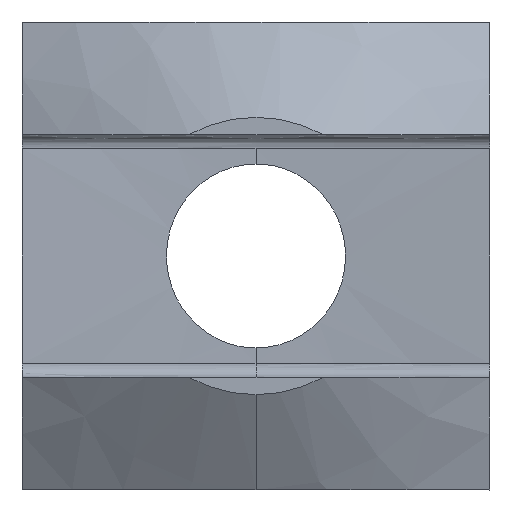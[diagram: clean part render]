
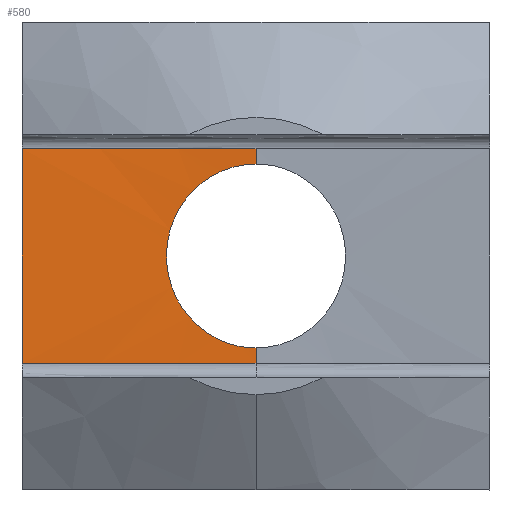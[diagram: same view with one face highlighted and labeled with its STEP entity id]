
A CAD part, left-side view. The second image highlights one B-rep face of the part: STEP entity #580.
In plain terms, the highlighted cylindrical face has radius 157 mm (diameter 314 mm), a partial arc.
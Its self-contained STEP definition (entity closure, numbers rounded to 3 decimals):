
#31 = EDGE_CURVE ( 'NONE', #1314, #472, #369, .T. ) ;
#39 = DIRECTION ( 'NONE',  ( 0., 0., -1. ) ) ;
#55 = CARTESIAN_POINT ( 'NONE',  ( 28.55, 3.179, 4.192 ) ) ;
#61 = CARTESIAN_POINT ( 'NONE',  ( 28.573, 1.689, 5.024 ) ) ;
#66 = CARTESIAN_POINT ( 'NONE',  ( 28.544, 3.44, 3.969 ) ) ;
#97 = CARTESIAN_POINT ( 'NONE',  ( 28.527, 4.127, -3.204 ) ) ;
#100 = CARTESIAN_POINT ( 'NONE',  ( 28.573, 1.689, -5.023 ) ) ;
#158 = CIRCLE ( 'NONE', #1053, 157. ) ;
#159 = LINE ( 'NONE', #997, #819 ) ;
#172 = CARTESIAN_POINT ( 'NONE',  ( 28.56, 2.613, 4.587 ) ) ;
#186 = ORIENTED_EDGE ( 'NONE', *, *, #31, .F. ) ;
#190 = DIRECTION ( 'NONE',  ( 1., 0., 0. ) ) ;
#191 = LINE ( 'NONE', #282, #869 ) ;
#192 = DIRECTION ( 'NONE',  ( 0., 0., 1. ) ) ;
#194 = VECTOR ( 'NONE', #1461, 1000. ) ;
#201 = CARTESIAN_POINT ( 'NONE',  ( 28.567, 2.158, -4.821 ) ) ;
#210 = CYLINDRICAL_SURFACE ( 'NONE', #288, 157. ) ;
#229 = ORIENTED_EDGE ( 'NONE', *, *, #1330, .F. ) ;
#255 = DIRECTION ( 'NONE',  ( 0., 0., 1. ) ) ;
#270 = CARTESIAN_POINT ( 'NONE',  ( 28.58, 0.686, 5.268 ) ) ;
#279 = CARTESIAN_POINT ( 'NONE',  ( 28.533, 3.906, 3.471 ) ) ;
#282 = CARTESIAN_POINT ( 'NONE',  ( 28.581, 0., 0. ) ) ;
#285 = CARTESIAN_POINT ( 'NONE',  ( 28.497, 5.162, 0.343 ) ) ;
#288 = AXIS2_PLACEMENT_3D ( 'NONE', #1363, #192, #190 ) ;
#297 = VERTEX_POINT ( 'NONE', #1421 ) ;
#303 = CARTESIAN_POINT ( 'NONE',  ( 28.517, 4.495, -2.63 ) ) ;
#309 = CARTESIAN_POINT ( 'NONE',  ( 28.581, 0., -5.303 ) ) ;
#366 = ORIENTED_EDGE ( 'NONE', *, *, #569, .F. ) ;
#369 = B_SPLINE_CURVE_WITH_KNOTS ( 'NONE', 3,
 ( #978, #982, #270, #725, #61, #620, #172, #55, #66, #844, #279, #1094, #1232, #964, #1457, #1088, #857, #1218, #285, #415, #436, #987, #1111, #549, #1489, #885, #303, #97, #540, #1122, #772, #890, #760, #1260, #201, #100, #1240, #1360, #1371, #309 ),
 .UNSPECIFIED., .F., .F.,
 ( 4, 2, 2, 2, 2, 2, 2, 2, 2, 2, 2, 2, 2, 2, 2, 2, 2, 2, 2, 4 ),
 ( 0., 0.001, 0.002, 0.003, 0.004, 0.005, 0.005, 0.006, 0.007, 0.008, 0.009, 0.01, 0.01, 0.011, 0.012, 0.013, 0.014, 0.014, 0.015, 0.016 ),
 .UNSPECIFIED. ) ;
#415 = CARTESIAN_POINT ( 'NONE',  ( 28.497, 5.162, -0.348 ) ) ;
#436 = CARTESIAN_POINT ( 'NONE',  ( 28.498, 5.129, -0.688 ) ) ;
#464 = AXIS2_PLACEMENT_3D ( 'NONE', #602, #39, #722 ) ;
#472 = VERTEX_POINT ( 'NONE', #1091 ) ;
#494 = CARTESIAN_POINT ( 'NONE',  ( 28.581, 0., 5.303 ) ) ;
#502 = CARTESIAN_POINT ( 'NONE',  ( 28.581, 0., 6.2 ) ) ;
#537 = DIRECTION ( 'NONE',  ( 0., 0., 1. ) ) ;
#540 = CARTESIAN_POINT ( 'NONE',  ( 28.533, 3.912, -3.478 ) ) ;
#549 = CARTESIAN_POINT ( 'NONE',  ( 28.505, 4.898, -1.685 ) ) ;
#563 = EDGE_CURVE ( 'NONE', #1314, #1405, #741, .T. ) ;
#569 = EDGE_CURVE ( 'NONE', #1315, #1102, #159, .T. ) ;
#580 = ADVANCED_FACE ( 'NONE', ( #1222 ), #210, .F. ) ;
#602 = CARTESIAN_POINT ( 'NONE',  ( -128.419, 0., 6.2 ) ) ;
#620 = CARTESIAN_POINT ( 'NONE',  ( 28.565, 2.315, 4.753 ) ) ;
#722 = DIRECTION ( 'NONE',  ( -1., 0., 0. ) ) ;
#725 = CARTESIAN_POINT ( 'NONE',  ( 28.576, 1.357, 5.129 ) ) ;
#736 = DIRECTION ( 'NONE',  ( 0., 0., 1. ) ) ;
#741 = LINE ( 'NONE', #1234, #194 ) ;
#760 = CARTESIAN_POINT ( 'NONE',  ( 28.56, 2.612, -4.578 ) ) ;
#772 = CARTESIAN_POINT ( 'NONE',  ( 28.55, 3.18, -4.192 ) ) ;
#796 = CIRCLE ( 'NONE', #464, 157. ) ;
#819 = VECTOR ( 'NONE', #537, 1000. ) ;
#844 = CARTESIAN_POINT ( 'NONE',  ( 28.536, 3.794, 3.6 ) ) ;
#857 = CARTESIAN_POINT ( 'NONE',  ( 28.502, 5.002, 1.355 ) ) ;
#869 = VECTOR ( 'NONE', #736, 1000. ) ;
#885 = CARTESIAN_POINT ( 'NONE',  ( 28.513, 4.651, -2.327 ) ) ;
#890 = CARTESIAN_POINT ( 'NONE',  ( 28.557, 2.759, -4.486 ) ) ;
#934 = CARTESIAN_POINT ( 'NONE',  ( 28., 13.5, -6.2 ) ) ;
#939 = EDGE_CURVE ( 'NONE', #1102, #1405, #796, .T. ) ;
#947 = CARTESIAN_POINT ( 'NONE',  ( -128.419, 0., -6.2 ) ) ;
#964 = CARTESIAN_POINT ( 'NONE',  ( 28.517, 4.496, 2.627 ) ) ;
#977 = CARTESIAN_POINT ( 'NONE',  ( 28., 13.5, 6.2 ) ) ;
#978 = CARTESIAN_POINT ( 'NONE',  ( 28.581, 0., 5.303 ) ) ;
#982 = CARTESIAN_POINT ( 'NONE',  ( 28.581, 0.346, 5.303 ) ) ;
#987 = CARTESIAN_POINT ( 'NONE',  ( 28.501, 5.033, -1.19 ) ) ;
#997 = CARTESIAN_POINT ( 'NONE',  ( 28., 13.5, 0. ) ) ;
#1053 = AXIS2_PLACEMENT_3D ( 'NONE', #947, #255, #1068 ) ;
#1062 = ORIENTED_EDGE ( 'NONE', *, *, #1117, .T. ) ;
#1068 = DIRECTION ( 'NONE',  ( 1., 0., 0. ) ) ;
#1088 = CARTESIAN_POINT ( 'NONE',  ( 28.505, 4.905, 1.689 ) ) ;
#1091 = CARTESIAN_POINT ( 'NONE',  ( 28.581, 0., -5.303 ) ) ;
#1094 = CARTESIAN_POINT ( 'NONE',  ( 28.528, 4.118, 3.202 ) ) ;
#1102 = VERTEX_POINT ( 'NONE', #977 ) ;
#1111 = CARTESIAN_POINT ( 'NONE',  ( 28.502, 4.993, -1.356 ) ) ;
#1117 = EDGE_CURVE ( 'NONE', #297, #472, #191, .T. ) ;
#1122 = CARTESIAN_POINT ( 'NONE',  ( 28.544, 3.438, -3.97 ) ) ;
#1218 = CARTESIAN_POINT ( 'NONE',  ( 28.498, 5.13, 0.683 ) ) ;
#1222 = FACE_OUTER_BOUND ( 'NONE', #1354, .T. ) ;
#1226 = ORIENTED_EDGE ( 'NONE', *, *, #563, .T. ) ;
#1229 = ORIENTED_EDGE ( 'NONE', *, *, #939, .F. ) ;
#1232 = CARTESIAN_POINT ( 'NONE',  ( 28.525, 4.219, 3.061 ) ) ;
#1234 = CARTESIAN_POINT ( 'NONE',  ( 28.581, 0., 0. ) ) ;
#1240 = CARTESIAN_POINT ( 'NONE',  ( 28.576, 1.364, -5.127 ) ) ;
#1260 = CARTESIAN_POINT ( 'NONE',  ( 28.565, 2.312, -4.745 ) ) ;
#1314 = VERTEX_POINT ( 'NONE', #494 ) ;
#1315 = VERTEX_POINT ( 'NONE', #934 ) ;
#1330 = EDGE_CURVE ( 'NONE', #297, #1315, #158, .T. ) ;
#1354 = EDGE_LOOP ( 'NONE', ( #229, #1062, #186, #1226, #1229, #366 ) ) ;
#1360 = CARTESIAN_POINT ( 'NONE',  ( 28.58, 0.689, -5.268 ) ) ;
#1363 = CARTESIAN_POINT ( 'NONE',  ( -128.419, 0., 0. ) ) ;
#1371 = CARTESIAN_POINT ( 'NONE',  ( 28.581, 0.346, -5.303 ) ) ;
#1405 = VERTEX_POINT ( 'NONE', #502 ) ;
#1421 = CARTESIAN_POINT ( 'NONE',  ( 28.581, 0., -6.2 ) ) ;
#1457 = CARTESIAN_POINT ( 'NONE',  ( 28.513, 4.652, 2.324 ) ) ;
#1461 = DIRECTION ( 'NONE',  ( 0., 0., 1. ) ) ;
#1489 = CARTESIAN_POINT ( 'NONE',  ( 28.507, 4.841, -1.849 ) ) ;
